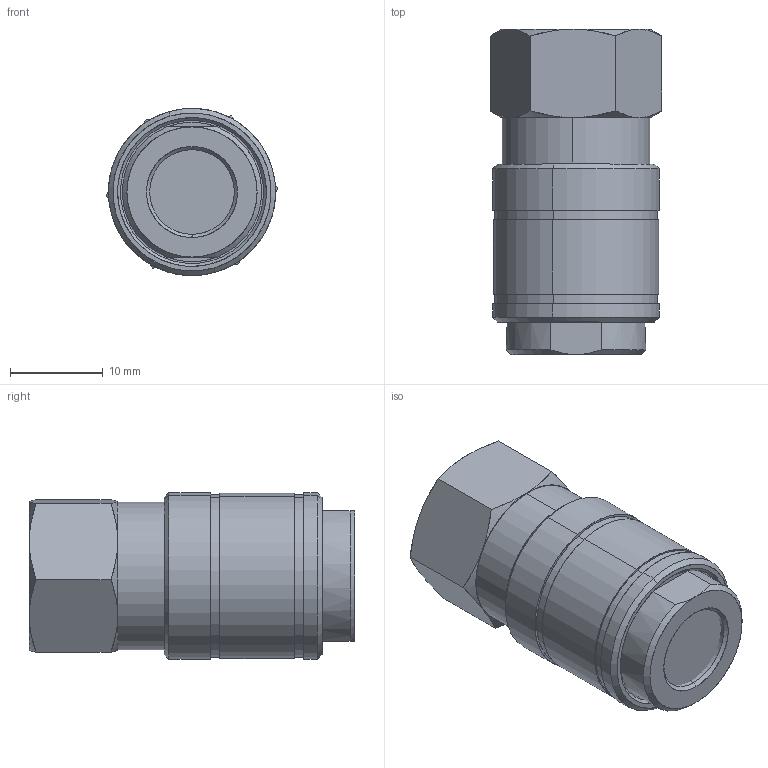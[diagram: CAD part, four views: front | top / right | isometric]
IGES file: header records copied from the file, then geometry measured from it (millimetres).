
Start section: SolidWorks IGES file using analytic representation for surfaces
Global section: file name: K:\Disegni Esecutivi\Serie 100-200\ASSIEMI\182\182_iges\0018200001A.IGS; native system: SolidWorks 2009; preprocessor: SolidWorks 2009; author: cad05; date: 090518.103005; units: millimetre
Bounding box: 18.46 x 35 x 18 mm (x, y, z)
Surface area: 5635.6 mm2 (no closed solid volume)
Topology: 0 solids, 0 shells, 77 faces, 1332 edges, 1332 vertices
Faces by surface type: revolution 54, bspline 23
